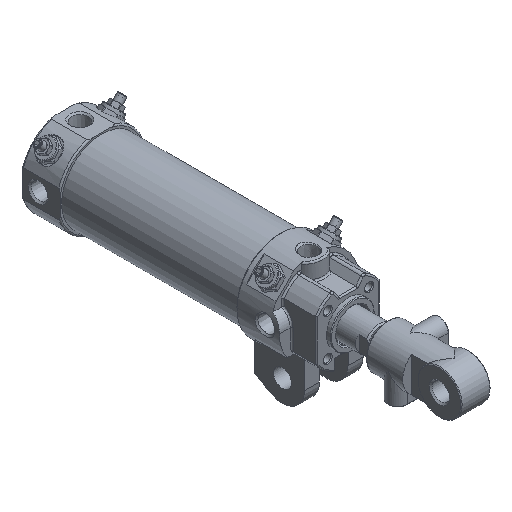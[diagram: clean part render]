
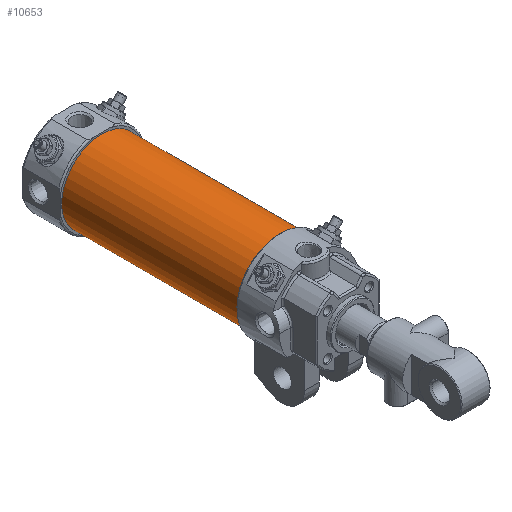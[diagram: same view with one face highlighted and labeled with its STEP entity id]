
A CAD part, isometric view. The second image highlights one B-rep face of the part: STEP entity #10653.
In plain terms, the highlighted cylindrical face has radius 27.5 mm (diameter 55 mm), a full revolution.
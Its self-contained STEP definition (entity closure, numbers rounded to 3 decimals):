
#2742=CARTESIAN_POINT('',(27.5,171.0,0.));
#2743=VERTEX_POINT('',#2742);
#2744=CARTESIAN_POINT('',(0.,171.0,0.));
#2745=DIRECTION('',(0.0,-1.0,0.0));
#2746=DIRECTION('',(-1.0,0.0,0.0));
#2747=AXIS2_PLACEMENT_3D('',#2744,#2745,#2746);
#2748=CIRCLE('',#2747,27.5);
#2749=EDGE_CURVE('',#2743,#2743,#2748,.T.);
#10630=CARTESIAN_POINT('',(27.5,50.,0.));
#10631=VERTEX_POINT('',#10630);
#10632=CARTESIAN_POINT('',(0.,50.,0.));
#10633=DIRECTION('',(0.0,-1.0,0.0));
#10634=DIRECTION('',(-1.0,0.0,0.0));
#10635=AXIS2_PLACEMENT_3D('',#10632,#10633,#10634);
#10636=CIRCLE('',#10635,27.5);
#10637=EDGE_CURVE('',#10631,#10631,#10636,.T.);
#10642=CARTESIAN_POINT('',(0.,50.,0.));
#10643=DIRECTION('',(0.0,1.0,0.));
#10644=DIRECTION('',(-1.0,0.0,0.0));
#10645=AXIS2_PLACEMENT_3D('',#10642,#10643,#10644);
#10646=CYLINDRICAL_SURFACE('',#10645,27.5);
#10647=ORIENTED_EDGE('',*,*,#2749,.T.);
#10648=EDGE_LOOP('',(#10647));
#10649=FACE_OUTER_BOUND('',#10648,.T.);
#10650=ORIENTED_EDGE('',*,*,#10637,.F.);
#10651=EDGE_LOOP('',(#10650));
#10652=FACE_BOUND('',#10651,.T.);
#10653=ADVANCED_FACE('',(#10649,#10652),#10646,.T.);
